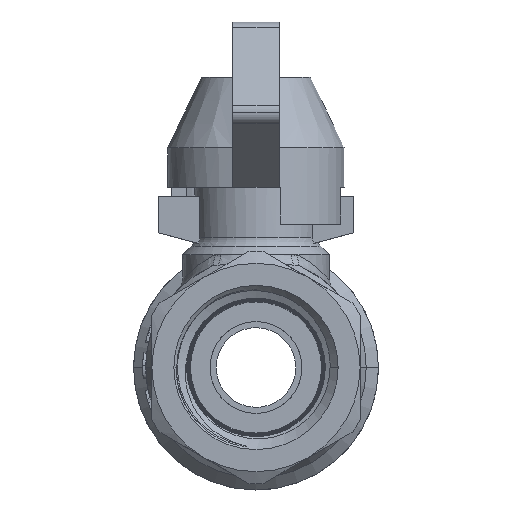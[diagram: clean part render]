
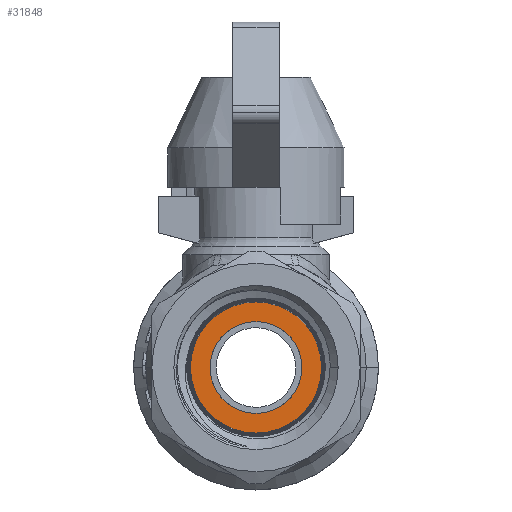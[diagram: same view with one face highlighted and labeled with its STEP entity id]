
A CAD part, left-side view. The second image highlights one B-rep face of the part: STEP entity #31848.
In plain terms, the highlighted planar face has unit normal (-1, 0, 0).
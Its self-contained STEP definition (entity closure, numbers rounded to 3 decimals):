
#5538 = VERTEX_POINT('',#5539);
#5539 = CARTESIAN_POINT('',(-9.,-0.584,
    -1.98));
#5548 = CONICAL_SURFACE('',#5549,5.671,0.031);
#5549 = AXIS2_PLACEMENT_3D('',#5550,#5551,#5552);
#5550 = CARTESIAN_POINT('',(-19.468,4.767,
    -1.98));
#5551 = DIRECTION('',(-1.,0.,0.));
#5552 = DIRECTION('',(-0.,-1.,0.));
#5560 = CONICAL_SURFACE('',#5561,5.671,0.031);
#5561 = AXIS2_PLACEMENT_3D('',#5562,#5563,#5564);
#5562 = CARTESIAN_POINT('',(-19.468,4.767,
    -1.98));
#5563 = DIRECTION('',(-1.,0.,0.));
#5564 = DIRECTION('',(-0.,-1.,0.));
#5811 = VERTEX_POINT('',#5812);
#5812 = CARTESIAN_POINT('',(-9.,10.119,
    -1.98));
#5833 = EDGE_CURVE('',#5811,#5538,#5834,.T.);
#5834 = SURFACE_CURVE('',#5835,(#5840,#5847),.PCURVE_S1.);
#5835 = CIRCLE('',#5836,5.351);
#5836 = AXIS2_PLACEMENT_3D('',#5837,#5838,#5839);
#5837 = CARTESIAN_POINT('',(-9.,4.767,
    -1.98));
#5838 = DIRECTION('',(-1.,0.,0.));
#5839 = DIRECTION('',(-0.,-1.,0.));
#5840 = PCURVE('',#5548,#5841);
#5841 = DEFINITIONAL_REPRESENTATION('',(#5842),#5846);
#5842 = LINE('',#5843,#5844);
#5843 = CARTESIAN_POINT('',(0.,-10.468));
#5844 = VECTOR('',#5845,1.);
#5845 = DIRECTION('',(1.,0.));
#5846 = ( GEOMETRIC_REPRESENTATION_CONTEXT(2) 
PARAMETRIC_REPRESENTATION_CONTEXT() REPRESENTATION_CONTEXT('2D SPACE',''
  ) );
#5847 = PCURVE('',#5848,#5853);
#5848 = PLANE('',#5849);
#5849 = AXIS2_PLACEMENT_3D('',#5850,#5851,#5852);
#5850 = CARTESIAN_POINT('',(-9.,4.767,
    -1.98));
#5851 = DIRECTION('',(1.,0.,0.));
#5852 = DIRECTION('',(-0.,1.,0.));
#5853 = DEFINITIONAL_REPRESENTATION('',(#5854),#5862);
#5854 = ( BOUNDED_CURVE() B_SPLINE_CURVE(2,(#5855,#5856,#5857,#5858,
#5859,#5860,#5861),.UNSPECIFIED.,.T.,.F.) B_SPLINE_CURVE_WITH_KNOTS((1,2
    ,2,2,2,1),(-2.094,0.,2.094,4.189,
6.283,8.378),.UNSPECIFIED.) CURVE() 
GEOMETRIC_REPRESENTATION_ITEM() RATIONAL_B_SPLINE_CURVE((1.,0.5,1.,0.5,
1.,0.5,1.)) REPRESENTATION_ITEM('') );
#5855 = CARTESIAN_POINT('',(-5.351,0.));
#5856 = CARTESIAN_POINT('',(-5.351,9.269));
#5857 = CARTESIAN_POINT('',(2.676,4.635));
#5858 = CARTESIAN_POINT('',(10.703,0.));
#5859 = CARTESIAN_POINT('',(2.676,-4.635));
#5860 = CARTESIAN_POINT('',(-5.351,-9.269));
#5861 = CARTESIAN_POINT('',(-5.351,0.));
#5862 = ( GEOMETRIC_REPRESENTATION_CONTEXT(2) 
PARAMETRIC_REPRESENTATION_CONTEXT() REPRESENTATION_CONTEXT('2D SPACE',''
  ) );
#11967 = VERTEX_POINT('',#11968);
#11968 = CARTESIAN_POINT('',(-9.,1.017,
    -1.98));
#11975 = CYLINDRICAL_SURFACE('',#11976,3.75);
#11976 = AXIS2_PLACEMENT_3D('',#11977,#11978,#11979);
#11977 = CARTESIAN_POINT('',(-20.5,4.767,
    -1.98));
#11978 = DIRECTION('',(-1.,0.,0.));
#11979 = DIRECTION('',(-0.,-1.,0.));
#11987 = CYLINDRICAL_SURFACE('',#11988,3.75);
#11988 = AXIS2_PLACEMENT_3D('',#11989,#11990,#11991);
#11989 = CARTESIAN_POINT('',(-20.5,4.767,
    -1.98));
#11990 = DIRECTION('',(-1.,0.,0.));
#11991 = DIRECTION('',(-0.,-1.,0.));
#11999 = EDGE_CURVE('',#12000,#11967,#12002,.T.);
#12000 = VERTEX_POINT('',#12001);
#12001 = CARTESIAN_POINT('',(-9.,8.517,
    -1.98));
#12002 = SURFACE_CURVE('',#12003,(#12008,#12015),.PCURVE_S1.);
#12003 = CIRCLE('',#12004,3.75);
#12004 = AXIS2_PLACEMENT_3D('',#12005,#12006,#12007);
#12005 = CARTESIAN_POINT('',(-9.,4.767,
    -1.98));
#12006 = DIRECTION('',(-1.,0.,0.));
#12007 = DIRECTION('',(-0.,-1.,0.));
#12008 = PCURVE('',#11975,#12009);
#12009 = DEFINITIONAL_REPRESENTATION('',(#12010),#12014);
#12010 = LINE('',#12011,#12012);
#12011 = CARTESIAN_POINT('',(0.,-11.5));
#12012 = VECTOR('',#12013,1.);
#12013 = DIRECTION('',(1.,0.));
#12014 = ( GEOMETRIC_REPRESENTATION_CONTEXT(2) 
PARAMETRIC_REPRESENTATION_CONTEXT() REPRESENTATION_CONTEXT('2D SPACE',''
  ) );
#12015 = PCURVE('',#5848,#12016);
#12016 = DEFINITIONAL_REPRESENTATION('',(#12017),#12025);
#12017 = ( BOUNDED_CURVE() B_SPLINE_CURVE(2,(#12018,#12019,#12020,#12021
    ,#12022,#12023,#12024),.UNSPECIFIED.,.T.,.F.) 
B_SPLINE_CURVE_WITH_KNOTS((1,2,2,2,2,1),(-2.094,0.,
    2.094,4.189,6.283,8.378),
.UNSPECIFIED.) CURVE() GEOMETRIC_REPRESENTATION_ITEM() 
RATIONAL_B_SPLINE_CURVE((1.,0.5,1.,0.5,1.,0.5,1.)) REPRESENTATION_ITEM(
  '') );
#12018 = CARTESIAN_POINT('',(-3.75,0.));
#12019 = CARTESIAN_POINT('',(-3.75,6.495));
#12020 = CARTESIAN_POINT('',(1.875,3.248));
#12021 = CARTESIAN_POINT('',(7.5,0.));
#12022 = CARTESIAN_POINT('',(1.875,-3.248));
#12023 = CARTESIAN_POINT('',(-3.75,-6.495));
#12024 = CARTESIAN_POINT('',(-3.75,0.));
#12025 = ( GEOMETRIC_REPRESENTATION_CONTEXT(2) 
PARAMETRIC_REPRESENTATION_CONTEXT() REPRESENTATION_CONTEXT('2D SPACE',''
  ) );
#31823 = EDGE_CURVE('',#11967,#12000,#31824,.T.);
#31824 = SURFACE_CURVE('',#31825,(#31830,#31837),.PCURVE_S1.);
#31825 = CIRCLE('',#31826,3.75);
#31826 = AXIS2_PLACEMENT_3D('',#31827,#31828,#31829);
#31827 = CARTESIAN_POINT('',(-9.,4.767,
    -1.98));
#31828 = DIRECTION('',(-1.,0.,0.));
#31829 = DIRECTION('',(-0.,-1.,0.));
#31830 = PCURVE('',#11987,#31831);
#31831 = DEFINITIONAL_REPRESENTATION('',(#31832),#31836);
#31832 = LINE('',#31833,#31834);
#31833 = CARTESIAN_POINT('',(0.,-11.5));
#31834 = VECTOR('',#31835,1.);
#31835 = DIRECTION('',(1.,0.));
#31836 = ( GEOMETRIC_REPRESENTATION_CONTEXT(2) 
PARAMETRIC_REPRESENTATION_CONTEXT() REPRESENTATION_CONTEXT('2D SPACE',''
  ) );
#31837 = PCURVE('',#5848,#31838);
#31838 = DEFINITIONAL_REPRESENTATION('',(#31839),#31847);
#31839 = ( BOUNDED_CURVE() B_SPLINE_CURVE(2,(#31840,#31841,#31842,#31843
    ,#31844,#31845,#31846),.UNSPECIFIED.,.T.,.F.) 
B_SPLINE_CURVE_WITH_KNOTS((1,2,2,2,2,1),(-2.094,0.,
    2.094,4.189,6.283,8.378),
.UNSPECIFIED.) CURVE() GEOMETRIC_REPRESENTATION_ITEM() 
RATIONAL_B_SPLINE_CURVE((1.,0.5,1.,0.5,1.,0.5,1.)) REPRESENTATION_ITEM(
  '') );
#31840 = CARTESIAN_POINT('',(-3.75,0.));
#31841 = CARTESIAN_POINT('',(-3.75,6.495));
#31842 = CARTESIAN_POINT('',(1.875,3.248));
#31843 = CARTESIAN_POINT('',(7.5,0.));
#31844 = CARTESIAN_POINT('',(1.875,-3.248));
#31845 = CARTESIAN_POINT('',(-3.75,-6.495));
#31846 = CARTESIAN_POINT('',(-3.75,0.));
#31847 = ( GEOMETRIC_REPRESENTATION_CONTEXT(2) 
PARAMETRIC_REPRESENTATION_CONTEXT() REPRESENTATION_CONTEXT('2D SPACE',''
  ) );
#31848 = ADVANCED_FACE('',(#31849,#31853),#5848,.F.);
#31849 = FACE_BOUND('',#31850,.T.);
#31850 = EDGE_LOOP('',(#31851,#31852));
#31851 = ORIENTED_EDGE('',*,*,#31823,.F.);
#31852 = ORIENTED_EDGE('',*,*,#11999,.F.);
#31853 = FACE_BOUND('',#31854,.T.);
#31854 = EDGE_LOOP('',(#31855,#31881));
#31855 = ORIENTED_EDGE('',*,*,#31856,.T.);
#31856 = EDGE_CURVE('',#5538,#5811,#31857,.T.);
#31857 = SURFACE_CURVE('',#31858,(#31863,#31874),.PCURVE_S1.);
#31858 = CIRCLE('',#31859,5.351);
#31859 = AXIS2_PLACEMENT_3D('',#31860,#31861,#31862);
#31860 = CARTESIAN_POINT('',(-9.,4.767,
    -1.98));
#31861 = DIRECTION('',(-1.,0.,0.));
#31862 = DIRECTION('',(-0.,-1.,0.));
#31863 = PCURVE('',#5848,#31864);
#31864 = DEFINITIONAL_REPRESENTATION('',(#31865),#31873);
#31865 = ( BOUNDED_CURVE() B_SPLINE_CURVE(2,(#31866,#31867,#31868,#31869
    ,#31870,#31871,#31872),.UNSPECIFIED.,.T.,.F.) 
B_SPLINE_CURVE_WITH_KNOTS((1,2,2,2,2,1),(-2.094,0.,
    2.094,4.189,6.283,8.378),
.UNSPECIFIED.) CURVE() GEOMETRIC_REPRESENTATION_ITEM() 
RATIONAL_B_SPLINE_CURVE((1.,0.5,1.,0.5,1.,0.5,1.)) REPRESENTATION_ITEM(
  '') );
#31866 = CARTESIAN_POINT('',(-5.351,0.));
#31867 = CARTESIAN_POINT('',(-5.351,9.269));
#31868 = CARTESIAN_POINT('',(2.676,4.635));
#31869 = CARTESIAN_POINT('',(10.703,0.));
#31870 = CARTESIAN_POINT('',(2.676,-4.635));
#31871 = CARTESIAN_POINT('',(-5.351,-9.269));
#31872 = CARTESIAN_POINT('',(-5.351,0.));
#31873 = ( GEOMETRIC_REPRESENTATION_CONTEXT(2) 
PARAMETRIC_REPRESENTATION_CONTEXT() REPRESENTATION_CONTEXT('2D SPACE',''
  ) );
#31874 = PCURVE('',#5560,#31875);
#31875 = DEFINITIONAL_REPRESENTATION('',(#31876),#31880);
#31876 = LINE('',#31877,#31878);
#31877 = CARTESIAN_POINT('',(0.,-10.468));
#31878 = VECTOR('',#31879,1.);
#31879 = DIRECTION('',(1.,0.));
#31880 = ( GEOMETRIC_REPRESENTATION_CONTEXT(2) 
PARAMETRIC_REPRESENTATION_CONTEXT() REPRESENTATION_CONTEXT('2D SPACE',''
  ) );
#31881 = ORIENTED_EDGE('',*,*,#5833,.T.);
